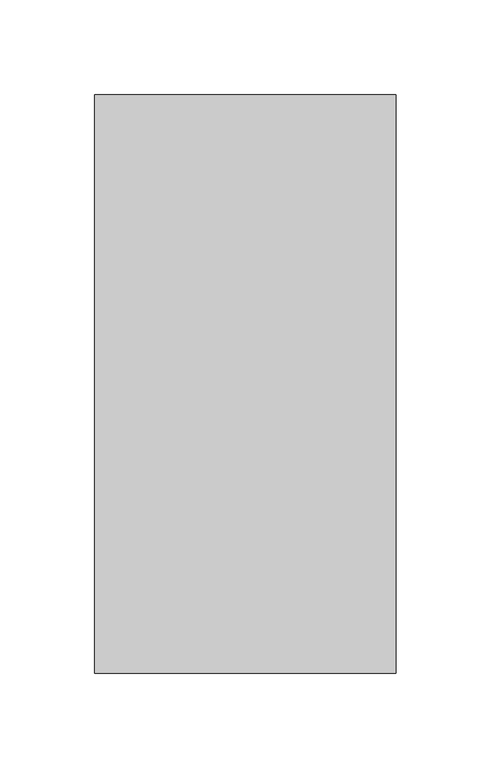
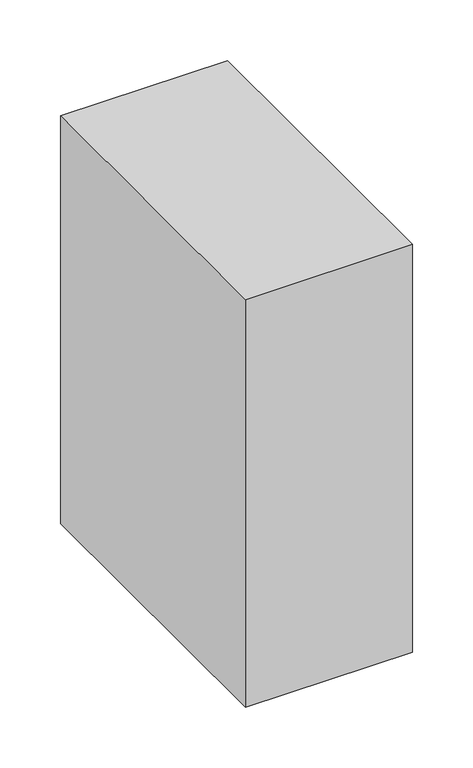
"""IFC4 building model written with IfcOpenShell, lengths in millimetres: proxy geometry, Climate_Control_acce : Climate_Control_acce."""

import ifcopenshell
import ifcopenshell.guid

model = None  # the IFC model being written
_history = None  # IfcOwnerHistory: only IFC2X3 demands one
_inside = {}  # id of a spatial element -> (the spatial element, [elements in it])
_under = {}  # id of a project, library or spatial element -> (it, [spatial elements below it])
_declared = {}  # id of a project -> (the project, [libraries it declares])
_typed = {}  # id of a type object -> (the type object, [elements of that type])
_made_of = {}  # id of a material, layer set ... -> (it, [elements and type objects made of it])


def new_model(schema):
    """Start an empty IFC model of exactly this schema.

    Asked for "IFC4X3", IfcOpenShell would pick the latest addendum, in which some entities
    have other attributes; the version numbers below select the first issue.
    IFC2X3 requires an IfcOwnerHistory on every rooted entity: one is made here for all.
    """
    global model, _history
    if schema == "IFC4X3":
        model = ifcopenshell.file(schema_version=(4, 3, 0, 0))
    else:
        model = ifcopenshell.file(schema=schema)
    _inside.clear()
    _under.clear()
    _declared.clear()
    _typed.clear()
    _made_of.clear()
    _history = None
    if model.schema == "IFC2X3":
        org = make("IfcOrganization", Name="unknown")
        user = make(
            "IfcPersonAndOrganization",
            ThePerson=make("IfcPerson", FamilyName="unknown"),
            TheOrganization=org,
        )
        app = make(
            "IfcApplication",
            ApplicationDeveloper=org,
            Version="unknown",
            ApplicationFullName="unknown",
            ApplicationIdentifier="unknown",
        )
        _history = make(
            "IfcOwnerHistory",
            OwningUser=user,
            OwningApplication=app,
            ChangeAction="ADDED",
            CreationDate=0,
        )
    return model


def make(cls, **values):
    """One entity of the class cls with the attributes given. An attribute that is None is left unset."""
    return model.create_entity(
        cls, **{name: value for name, value in values.items() if value is not None}
    )


def rooted(cls, **values):
    """An entity with a GlobalId (a new one), such as an element, a storey or a relation."""
    return make(cls, GlobalId=ifcopenshell.guid.new(), OwnerHistory=_history, **values)


def si_unit(unit_type, name, prefix=None):
    """IfcSIUnit, for example si_unit("LENGTHUNIT", "METRE", prefix="MILLI")."""
    return make("IfcSIUnit", UnitType=unit_type, Prefix=prefix, Name=name)


def assignment(units):
    """IfcUnitAssignment: the units of a project."""
    return None if units is None else make("IfcUnitAssignment", Units=units)


def point(xyz):
    """IfcCartesianPoint."""
    return None if xyz is None else make("IfcCartesianPoint", Coordinates=xyz)


def direction(xyz):
    """IfcDirection."""
    return None if xyz is None else make("IfcDirection", DirectionRatios=xyz)


def frame(location, z_axis=None, x_axis=None):
    """IfcAxis2Placement3D, a coordinate frame: its origin and axes. An axis left out is left unset."""
    return make(
        "IfcAxis2Placement3D",
        Location=point(location),
        Axis=direction(z_axis),
        RefDirection=direction(x_axis),
    )


def origin():
    """The frame at (0, 0, 0) with its axes left unset."""
    return frame((0.0, 0.0, 0.0))


def origin_with_axes():
    """The frame at (0, 0, 0) with the z axis (0, 0, 1) and the x axis (1, 0, 0) written out."""
    return frame((0.0, 0.0, 0.0), z_axis=(0.0, 0.0, 1.0), x_axis=(1.0, 0.0, 0.0))


def place(relative_to, where):
    """IfcLocalPlacement: puts the frame where relative to a parent placement (None: the world)."""
    return make(
        "IfcLocalPlacement", PlacementRelTo=relative_to, RelativePlacement=where
    )


def context(
    kind, dimensions, precision=None, world=None, true_north=None, identifier=None
):
    """IfcGeometricRepresentationContext, for example the 3D "Model" context."""
    return make(
        "IfcGeometricRepresentationContext",
        ContextIdentifier=identifier,
        ContextType=kind,
        CoordinateSpaceDimension=dimensions,
        Precision=precision,
        WorldCoordinateSystem=world,
        TrueNorth=true_north,
    )


def project(units=None, contexts=None):
    """IfcProject with its units and contexts."""
    return rooted(
        "IfcProject",
        Name="project",
        RepresentationContexts=contexts,
        UnitsInContext=assignment(units),
    )


def spatial(cls, under=None, at=None, **own):
    """A site, building, storey or space (cls), placed at a placement, below another one or the project."""
    s = rooted(cls, ObjectPlacement=at, **own)
    if under is not None:
        _under.setdefault(under.id(), (under, []))[1].append(s)
    return s


def polyline(points):
    """IfcPolyline through the points."""
    return make("IfcPolyline", Points=[point(p) for p in points])


def outline(outer, holes=None, kind="AREA"):
    """IfcArbitraryClosedProfileDef: a profile drawn as a closed curve; with holes, ...WithVoids."""
    if holes is None:
        return make("IfcArbitraryClosedProfileDef", ProfileType=kind, OuterCurve=outer)
    return make(
        "IfcArbitraryProfileDefWithVoids",
        ProfileType=kind,
        OuterCurve=outer,
        InnerCurves=holes,
    )


def extrude(swept, where, along, depth):
    """IfcExtrudedAreaSolid: the profile swept, set in the frame where, extruded along a direction by depth."""
    return make(
        "IfcExtrudedAreaSolid",
        SweptArea=swept,
        Position=where,
        ExtrudedDirection=direction(along),
        Depth=depth,
    )


def shape(context_of_items, identifier, shape_type, items):
    """IfcShapeRepresentation: the items that make up one representation, for example the "Body"."""
    return make(
        "IfcShapeRepresentation",
        ContextOfItems=context_of_items,
        RepresentationIdentifier=identifier,
        RepresentationType=shape_type,
        Items=items,
    )


def source(mapping_origin, context_of_items, identifier, shape_type, items):
    """IfcRepresentationMap: a shape defined once, which mapped items show again and again."""
    return make(
        "IfcRepresentationMap",
        MappingOrigin=mapping_origin,
        MappedRepresentation=shape(context_of_items, identifier, shape_type, items),
    )


def transform(
    local_origin,
    x_axis=None,
    y_axis=None,
    z_axis=None,
    scale=None,
    scale2=None,
    scale3=None,
    uniform=True,
):
    """IfcCartesianTransformationOperator3D, or its non-uniform kind. x_axis, y_axis, z_axis: its Axis1, 2, 3."""
    if uniform:
        return make(
            "IfcCartesianTransformationOperator3D",
            Axis1=direction(x_axis),
            Axis2=direction(y_axis),
            LocalOrigin=point(local_origin),
            Scale=scale,
            Axis3=direction(z_axis),
        )
    return make(
        "IfcCartesianTransformationOperator3DnonUniform",
        Axis1=direction(x_axis),
        Axis2=direction(y_axis),
        LocalOrigin=point(local_origin),
        Scale=scale,
        Axis3=direction(z_axis),
        Scale2=scale2,
        Scale3=scale3,
    )


def mapped(mapping_source, mapping_target):
    """IfcMappedItem: shows the shape of a source again, moved by a transform."""
    return make(
        "IfcMappedItem", MappingSource=mapping_source, MappingTarget=mapping_target
    )


def made_of(thing, what):
    """Note that an element or type object is made of a material, layer set ...; save() writes the relation."""
    if what is not None:
        _made_of.setdefault(what.id(), (what, []))[1].append(thing)
    return thing


def element(
    cls,
    number,
    at=None,
    inside=None,
    cuts=None,
    type_object=None,
    material=None,
    context=None,
    identifier="Body",
    shape_type=None,
    held_by="IfcProductDefinitionShape",
    body=None,
    shapes=None,
    **own,
):
    """One element of the class cls, such as IfcWall. Its Tag is "e" and its number.

    at: its placement. inside: the storey or other place that contains it. cuts: it is an
    opening in that element (IfcRelVoidsElement). A single representation is given by context,
    identifier, shape_type and body (its items); several are given by shapes. held_by: the class
    of the entity that holds the representations. save() writes the other relations.
    """
    e = rooted(cls, Tag="e%d" % number, ObjectPlacement=at, **own)
    if body is not None:
        shapes = [shape(context, identifier, shape_type, body)]
    if shapes is not None:
        e.Representation = make(held_by, Representations=shapes)
    if inside is not None:
        _inside.setdefault(inside.id(), (inside, []))[1].append(e)
    if cuts is not None:
        rooted(
            "IfcRelVoidsElement", RelatingBuildingElement=cuts, RelatedOpeningElement=e
        )
    if type_object is not None:
        _typed.setdefault(type_object.id(), (type_object, []))[1].append(e)
    return made_of(e, material)


def aggregate(whole, parts):
    """IfcRelAggregates: a whole, such as a stair, and the parts it consists of."""
    return rooted("IfcRelAggregates", RelatingObject=whole, RelatedObjects=parts)


def save(model, path):
    """Write the relations noted so far, then the file.

    IfcRelAggregates (storeys below a building ...), IfcRelContainedInSpatialStructure (elements
    in a storey), IfcRelDefinesByType, IfcRelAssociatesMaterial and IfcRelDeclares: one each for
    every whole, place, type object, material and project.
    """
    for whole, parts in _under.values():
        aggregate(whole, parts)
    for where, things in _inside.values():
        rooted(
            "IfcRelContainedInSpatialStructure",
            RelatedElements=things,
            RelatingStructure=where,
        )
    for kind, things in _typed.values():
        rooted("IfcRelDefinesByType", RelatedObjects=things, RelatingType=kind)
    for what, things in _made_of.values():
        rooted("IfcRelAssociatesMaterial", RelatedObjects=things, RelatingMaterial=what)
    for by, libraries in _declared.values():
        rooted("IfcRelDeclares", RelatingContext=by, RelatedDefinitions=libraries)
    model.write(path)


def mechanical_equipment_c87a87b9(model_context):
    return source(origin(), model_context, "Body", "SweptSolid", [
        extrude(outline(polyline([(79.5, 152.5), (79.5, -152.5), (-79.5, -152.5), (-79.5, 152.5), (79.5, 152.5)])), origin_with_axes(), (0.0, 0.0, 1.0), 410.0),
    ])


if __name__ == "__main__":
    model = new_model("IFC4")
    model_context = context("Model", 3, world=origin())
    ifc_project = project(units=[si_unit("LENGTHUNIT", "METRE", prefix="MILLI")], contexts=[model_context])
    site = spatial("IfcSite", under=ifc_project)
    building = spatial("IfcBuilding", under=site)
    placement = place(None, origin())
    mechanical_equipment_shape = mechanical_equipment_c87a87b9(model_context)
    element("IfcBuildingElementProxy", 1, Name="Climate_Control_acce : Climate_Control_acce", ObjectType="Climate_Control_acce : Climate_Control_acce", at=placement, inside=building, context=model_context, shape_type="MappedRepresentation", body=[
        mapped(mechanical_equipment_shape, transform((0.0, 0.0, 0.0), x_axis=(1.0, 0.0, 0.0), y_axis=(0.0, 1.0, 0.0), z_axis=(0.0, 0.0, 1.0))),
    ])
    save(model, "model.ifc")
